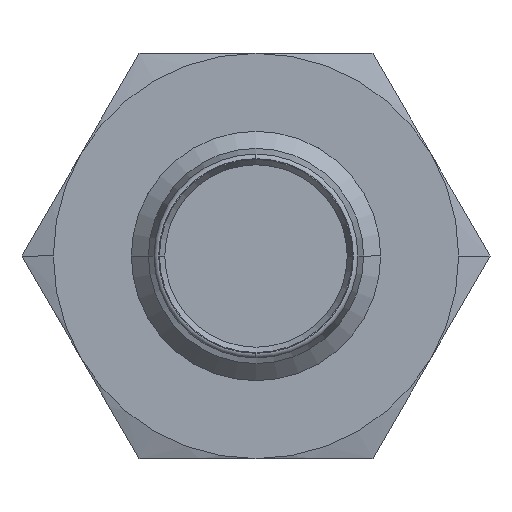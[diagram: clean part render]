
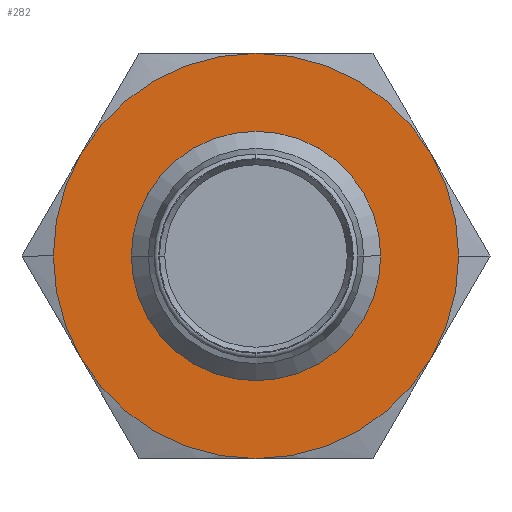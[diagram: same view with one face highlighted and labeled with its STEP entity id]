
A CAD part, left-side view. The second image highlights one B-rep face of the part: STEP entity #282.
In plain terms, the highlighted planar face has unit normal (-1, 0, 0).
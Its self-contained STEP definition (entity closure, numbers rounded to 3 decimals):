
#282 = ADVANCED_FACE( '', ( #516, #517 ), #518, .T. );
#516 = FACE_BOUND( '', #753, .T. );
#517 = FACE_OUTER_BOUND( '', #754, .T. );
#518 = PLANE( '', #755 );
#753 = EDGE_LOOP( '', ( #1564, #1565 ) );
#754 = EDGE_LOOP( '', ( #1566, #1567, #1568, #1569, #1570, #1571, #1572, #1573 ) );
#755 = AXIS2_PLACEMENT_3D( '', #1574, #1575, #1576 );
#1564 = ORIENTED_EDGE( '', *, *, #1781, .T. );
#1565 = ORIENTED_EDGE( '', *, *, #1832, .T. );
#1566 = ORIENTED_EDGE( '', *, *, #1824, .F. );
#1567 = ORIENTED_EDGE( '', *, *, #1825, .F. );
#1568 = ORIENTED_EDGE( '', *, *, #1820, .F. );
#1569 = ORIENTED_EDGE( '', *, *, #1821, .F. );
#1570 = ORIENTED_EDGE( '', *, *, #1793, .F. );
#1571 = ORIENTED_EDGE( '', *, *, #1822, .F. );
#1572 = ORIENTED_EDGE( '', *, *, #1823, .F. );
#1573 = ORIENTED_EDGE( '', *, *, #1789, .F. );
#1574 = CARTESIAN_POINT( '', ( 16., -3.25, 0. ) );
#1575 = DIRECTION( '', ( -1., 0., 0. ) );
#1576 = DIRECTION( '', ( 0., 1., 0. ) );
#1781 = EDGE_CURVE( '', #2141, #2143, #2145, .T. );
#1789 = EDGE_CURVE( '', #2158, #2161, #2162, .T. );
#1793 = EDGE_CURVE( '', #2167, #2165, #2169, .T. );
#1820 = EDGE_CURVE( '', #2203, #2194, #2212, .T. );
#1821 = EDGE_CURVE( '', #2165, #2203, #2213, .T. );
#1822 = EDGE_CURVE( '', #2171, #2167, #2214, .T. );
#1823 = EDGE_CURVE( '', #2161, #2171, #2215, .T. );
#1824 = EDGE_CURVE( '', #2182, #2158, #2216, .T. );
#1825 = EDGE_CURVE( '', #2194, #2182, #2217, .T. );
#1832 = EDGE_CURVE( '', #2143, #2141, #2224, .T. );
#2141 = VERTEX_POINT( '', #3089 );
#2143 = VERTEX_POINT( '', #3092 );
#2145 = CIRCLE( '', #3095, 4. );
#2158 = VERTEX_POINT( '', #3128 );
#2161 = VERTEX_POINT( '', #3132 );
#2162 = CIRCLE( '', #3133, 6.5 );
#2165 = VERTEX_POINT( '', #3145 );
#2167 = VERTEX_POINT( '', #3148 );
#2169 = CIRCLE( '', #3159, 6.5 );
#2171 = VERTEX_POINT( '', #3161 );
#2182 = VERTEX_POINT( '', #3210 );
#2194 = VERTEX_POINT( '', #3278 );
#2203 = VERTEX_POINT( '', #3324 );
#2212 = CIRCLE( '', #3388, 6.5 );
#2213 = CIRCLE( '', #3389, 6.5 );
#2214 = CIRCLE( '', #3390, 6.5 );
#2215 = CIRCLE( '', #3391, 6.5 );
#2216 = CIRCLE( '', #3392, 6.5 );
#2217 = CIRCLE( '', #3393, 6.5 );
#2224 = CIRCLE( '', #3400, 4. );
#3089 = CARTESIAN_POINT( '', ( 16., -4., 0. ) );
#3092 = CARTESIAN_POINT( '', ( 16., 4., 0. ) );
#3095 = AXIS2_PLACEMENT_3D( '', #3709, #3710, #3711 );
#3128 = CARTESIAN_POINT( '', ( 16., -6.5, 0. ) );
#3132 = CARTESIAN_POINT( '', ( 16., -5.629, -3.25 ) );
#3133 = AXIS2_PLACEMENT_3D( '', #3721, #3722, #3723 );
#3145 = CARTESIAN_POINT( '', ( 16., 6.5, 0. ) );
#3148 = CARTESIAN_POINT( '', ( 16., 5.629, -3.25 ) );
#3159 = AXIS2_PLACEMENT_3D( '', #3725, #3726, #3727 );
#3161 = CARTESIAN_POINT( '', ( 16., 0., -6.5 ) );
#3210 = CARTESIAN_POINT( '', ( 16., -5.629, 3.25 ) );
#3278 = CARTESIAN_POINT( '', ( 16., 0., 6.5 ) );
#3324 = CARTESIAN_POINT( '', ( 16., 5.629, 3.25 ) );
#3388 = AXIS2_PLACEMENT_3D( '', #3734, #3735, #3736 );
#3389 = AXIS2_PLACEMENT_3D( '', #3737, #3738, #3739 );
#3390 = AXIS2_PLACEMENT_3D( '', #3740, #3741, #3742 );
#3391 = AXIS2_PLACEMENT_3D( '', #3743, #3744, #3745 );
#3392 = AXIS2_PLACEMENT_3D( '', #3746, #3747, #3748 );
#3393 = AXIS2_PLACEMENT_3D( '', #3749, #3750, #3751 );
#3400 = AXIS2_PLACEMENT_3D( '', #3770, #3771, #3772 );
#3709 = CARTESIAN_POINT( '', ( 16., 0., 0. ) );
#3710 = DIRECTION( '', ( 1., 0., 0. ) );
#3711 = DIRECTION( '', ( 0., -1., 0. ) );
#3721 = CARTESIAN_POINT( '', ( 16., 0., 0. ) );
#3722 = DIRECTION( '', ( 1., 0., 0. ) );
#3723 = DIRECTION( '', ( 0., -1., 0. ) );
#3725 = CARTESIAN_POINT( '', ( 16., 0., 0. ) );
#3726 = DIRECTION( '', ( 1., 0., 0. ) );
#3727 = DIRECTION( '', ( 0., -1., 0. ) );
#3734 = CARTESIAN_POINT( '', ( 16., 0., 0. ) );
#3735 = DIRECTION( '', ( 1., 0., 0. ) );
#3736 = DIRECTION( '', ( 0., -1., 0. ) );
#3737 = CARTESIAN_POINT( '', ( 16., 0., 0. ) );
#3738 = DIRECTION( '', ( 1., 0., 0. ) );
#3739 = DIRECTION( '', ( 0., -1., 0. ) );
#3740 = CARTESIAN_POINT( '', ( 16., 0., 0. ) );
#3741 = DIRECTION( '', ( 1., 0., 0. ) );
#3742 = DIRECTION( '', ( 0., -1., 0. ) );
#3743 = CARTESIAN_POINT( '', ( 16., 0., 0. ) );
#3744 = DIRECTION( '', ( 1., 0., 0. ) );
#3745 = DIRECTION( '', ( 0., -1., 0. ) );
#3746 = CARTESIAN_POINT( '', ( 16., 0., 0. ) );
#3747 = DIRECTION( '', ( 1., 0., 0. ) );
#3748 = DIRECTION( '', ( 0., -1., 0. ) );
#3749 = CARTESIAN_POINT( '', ( 16., 0., 0. ) );
#3750 = DIRECTION( '', ( 1., 0., 0. ) );
#3751 = DIRECTION( '', ( 0., -1., 0. ) );
#3770 = CARTESIAN_POINT( '', ( 16., 0., 0. ) );
#3771 = DIRECTION( '', ( 1., 0., 0. ) );
#3772 = DIRECTION( '', ( 0., -1., 0. ) );
